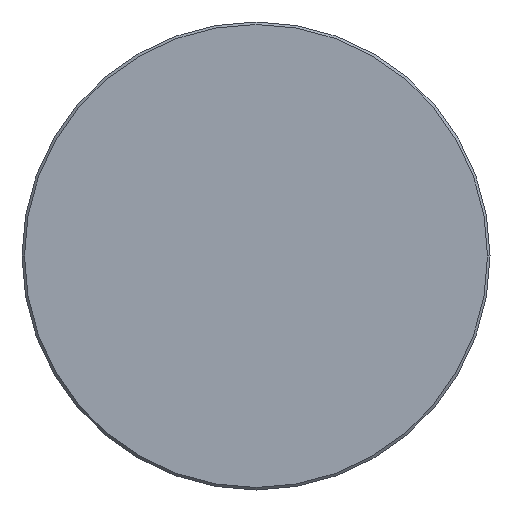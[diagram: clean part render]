
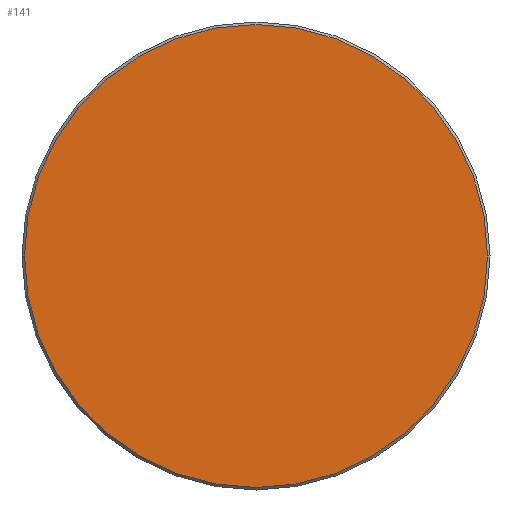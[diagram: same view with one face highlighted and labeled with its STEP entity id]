
A CAD part, left-side view. The second image highlights one B-rep face of the part: STEP entity #141.
In plain terms, the highlighted planar face has unit normal (-1, 0, 0).
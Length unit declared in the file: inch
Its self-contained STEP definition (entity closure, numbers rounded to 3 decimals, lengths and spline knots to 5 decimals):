
#15 = CIRCLE ( 'NONE', #293, 0.371 ) ;
#41 = CARTESIAN_POINT ( 'NONE',  ( 0., -0.371, 0. ) ) ;
#43 = DIRECTION ( 'NONE',  ( 0., -1., 0. ) ) ;
#46 = DIRECTION ( 'NONE',  ( 0., -1., 0. ) ) ;
#67 = CARTESIAN_POINT ( 'NONE',  ( 0., 0., 0. ) ) ;
#93 = EDGE_CURVE ( 'NONE', #330, #162, #322, .T. ) ;
#96 = DIRECTION ( 'NONE',  ( -1., 0., 0. ) ) ;
#119 = AXIS2_PLACEMENT_3D ( 'NONE', #297, #203, #268 ) ;
#141 = ADVANCED_FACE ( 'NONE', ( #302 ), #334, .T. ) ;
#144 = ORIENTED_EDGE ( 'NONE', *, *, #93, .T. ) ;
#153 = EDGE_LOOP ( 'NONE', ( #144, #274 ) ) ;
#155 = CARTESIAN_POINT ( 'NONE',  ( 0., 0., 0. ) ) ;
#162 = VERTEX_POINT ( 'NONE', #41 ) ;
#180 = AXIS2_PLACEMENT_3D ( 'NONE', #155, #96, #43 ) ;
#203 = DIRECTION ( 'NONE',  ( -1., 0., 0. ) ) ;
#207 = EDGE_CURVE ( 'NONE', #162, #330, #15, .T. ) ;
#248 = CARTESIAN_POINT ( 'NONE',  ( 0., 0.371, 0. ) ) ;
#268 = DIRECTION ( 'NONE',  ( 0., -1., 0. ) ) ;
#272 = DIRECTION ( 'NONE',  ( -1., 0., 0. ) ) ;
#274 = ORIENTED_EDGE ( 'NONE', *, *, #207, .T. ) ;
#293 = AXIS2_PLACEMENT_3D ( 'NONE', #67, #272, #46 ) ;
#297 = CARTESIAN_POINT ( 'NONE',  ( 0., 0., 0. ) ) ;
#302 = FACE_OUTER_BOUND ( 'NONE', #153, .T. ) ;
#322 = CIRCLE ( 'NONE', #119, 0.371 ) ;
#330 = VERTEX_POINT ( 'NONE', #248 ) ;
#334 = PLANE ( 'NONE',  #180 ) ;
